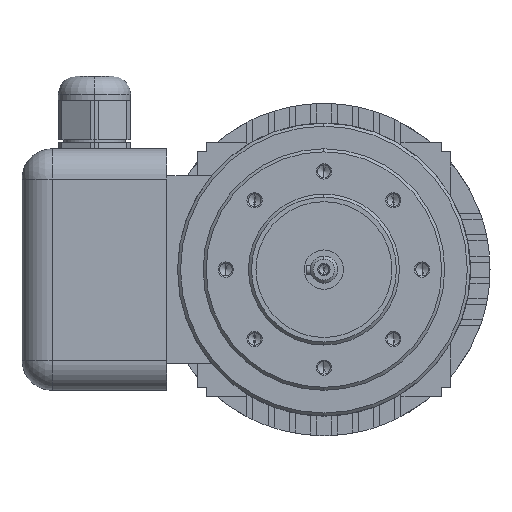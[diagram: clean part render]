
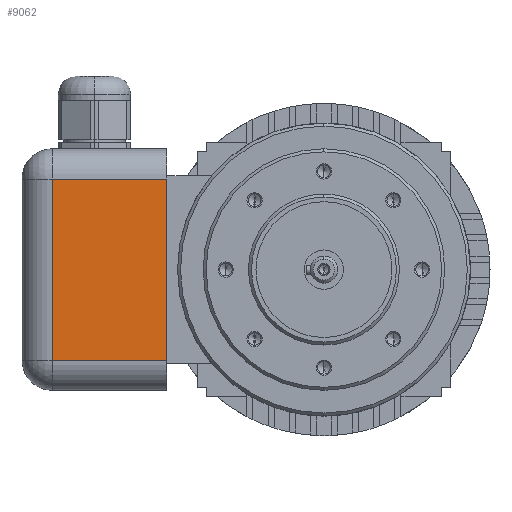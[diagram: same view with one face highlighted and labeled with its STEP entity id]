
A CAD part, left-side view. The second image highlights one B-rep face of the part: STEP entity #9062.
In plain terms, the highlighted planar face has unit normal (-1, 0, 0).
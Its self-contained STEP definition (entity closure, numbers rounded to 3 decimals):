
#220 = VECTOR ( 'NONE', #4349, 1000. ) ;
#653 = CARTESIAN_POINT ( 'NONE',  ( 18., 100., 30. ) ) ;
#723 = LINE ( 'NONE', #653, #12187 ) ;
#854 = DIRECTION ( 'NONE',  ( 0., -1., 0. ) ) ;
#2013 = CARTESIAN_POINT ( 'NONE',  ( 18., 52., -30. ) ) ;
#2190 = DIRECTION ( 'NONE',  ( 0., 0., -1. ) ) ;
#2447 = CARTESIAN_POINT ( 'NONE',  ( 18., 52., 40. ) ) ;
#2679 = ORIENTED_EDGE ( 'NONE', *, *, #7705, .T. ) ;
#3605 = DIRECTION ( 'NONE',  ( 0., 0., 1. ) ) ;
#3765 = VECTOR ( 'NONE', #854, 1000. ) ;
#4073 = PLANE ( 'NONE',  #4623 ) ;
#4349 = DIRECTION ( 'NONE',  ( 0., 0., -1. ) ) ;
#4545 = CARTESIAN_POINT ( 'NONE',  ( 18., 90., -30. ) ) ;
#4623 = AXIS2_PLACEMENT_3D ( 'NONE', #8059, #12054, #2190 ) ;
#4829 = ORIENTED_EDGE ( 'NONE', *, *, #7037, .T. ) ;
#4874 = CARTESIAN_POINT ( 'NONE',  ( 18., 90., 30. ) ) ;
#4936 = EDGE_LOOP ( 'NONE', ( #2679, #5219, #4829, #6061 ) ) ;
#4958 = CARTESIAN_POINT ( 'NONE',  ( 18., 52., 30. ) ) ;
#4984 = VERTEX_POINT ( 'NONE', #4545 ) ;
#5219 = ORIENTED_EDGE ( 'NONE', *, *, #9659, .T. ) ;
#6061 = ORIENTED_EDGE ( 'NONE', *, *, #11212, .T. ) ;
#6381 = VERTEX_POINT ( 'NONE', #4874 ) ;
#6661 = LINE ( 'NONE', #12616, #3765 ) ;
#7037 = EDGE_CURVE ( 'NONE', #10169, #8622, #8574, .T. ) ;
#7280 = LINE ( 'NONE', #12259, #220 ) ;
#7705 = EDGE_CURVE ( 'NONE', #6381, #4984, #7280, .T. ) ;
#7911 = VECTOR ( 'NONE', #3605, 1000. ) ;
#8059 = CARTESIAN_POINT ( 'NONE',  ( 18., 100., 40. ) ) ;
#8574 = LINE ( 'NONE', #2447, #7911 ) ;
#8622 = VERTEX_POINT ( 'NONE', #4958 ) ;
#9062 = ADVANCED_FACE ( 'NONE', ( #9105 ), #4073, .F. ) ;
#9105 = FACE_OUTER_BOUND ( 'NONE', #4936, .T. ) ;
#9659 = EDGE_CURVE ( 'NONE', #4984, #10169, #6661, .T. ) ;
#10169 = VERTEX_POINT ( 'NONE', #2013 ) ;
#10529 = DIRECTION ( 'NONE',  ( 0., 1., 0. ) ) ;
#11212 = EDGE_CURVE ( 'NONE', #8622, #6381, #723, .T. ) ;
#12054 = DIRECTION ( 'NONE',  ( 1., 0., 0. ) ) ;
#12187 = VECTOR ( 'NONE', #10529, 1000. ) ;
#12259 = CARTESIAN_POINT ( 'NONE',  ( 18., 90., 40. ) ) ;
#12616 = CARTESIAN_POINT ( 'NONE',  ( 18., 100., -30. ) ) ;
